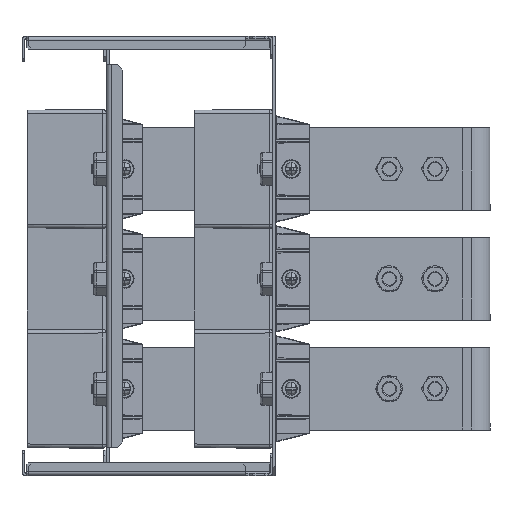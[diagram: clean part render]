
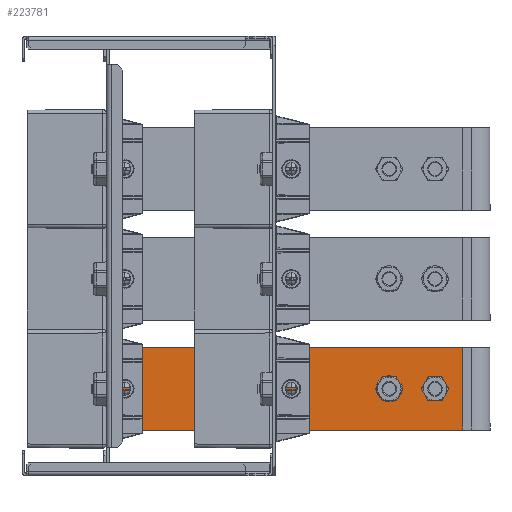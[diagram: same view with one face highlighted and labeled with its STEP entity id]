
A CAD part, left-side view. The second image highlights one B-rep face of the part: STEP entity #223781.
In plain terms, the highlighted planar face has unit normal (-1, 0, 0).
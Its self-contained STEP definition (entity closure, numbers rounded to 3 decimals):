
#223096=CARTESIAN_POINT(' ',(-2.5,-22.5,-0.5));
#223097=VERTEX_POINT(' ',#223096);
#223111=CARTESIAN_POINT(' ',(-2.5,-22.5,-0.5));
#223116=DIRECTION(' ',(0.,0.,-1.));
#223121=VECTOR(' ',#223116,1.);
#223126=LINE('',#223111,#223121);
#223131=CARTESIAN_POINT(' ',(-2.5,-22.5,-226.));
#223132=VERTEX_POINT(' ',#223131);
#223136=EDGE_CURVE(' ',#223097,#223132,#223126,.T.);
#223371=CARTESIAN_POINT(' ',(-2.5,22.5,-0.5));
#223376=DIRECTION(' ',(0.,0.,-1.));
#223381=VECTOR(' ',#223376,1.);
#223386=LINE('',#223371,#223381);
#223391=CARTESIAN_POINT(' ',(-2.5,22.5,-0.5));
#223392=VERTEX_POINT(' ',#223391);
#223396=CARTESIAN_POINT(' ',(-2.5,22.5,-226.));
#223397=VERTEX_POINT(' ',#223396);
#223401=EDGE_CURVE(' ',#223392,#223397,#223386,.T.);
#223646=CARTESIAN_POINT(' ',(-2.5,-22.5,-0.5));
#223651=DIRECTION(' ',(0.,1.,0.));
#223656=VECTOR(' ',#223651,1.);
#223661=LINE('',#223646,#223656);
#223666=EDGE_CURVE(' ',#223097,#223392,#223661,.T.);
#223701=DIRECTION(' ',(-1.,-0.,-0.));
#223706=CARTESIAN_POINT(' ',(-2.5,-22.5,-0.5));
#223711=DIRECTION(' ',(-0.,1.,0.));
#223716=AXIS2_PLACEMENT_3D(' ',#223706,#223701,#223711);
#223721=PLANE('NONE',#223716);
#223726=ORIENTED_EDGE(' ',*,*,#223136,.F.);
#223731=ORIENTED_EDGE(' ',*,*,#223666,.T.);
#223736=ORIENTED_EDGE(' ',*,*,#223401,.T.);
#223741=CARTESIAN_POINT(' ',(-2.5,22.5,-226.));
#223746=DIRECTION(' ',(0.,-1.,0.));
#223751=VECTOR(' ',#223746,1.);
#223756=LINE('',#223741,#223751);
#223761=EDGE_CURVE(' ',#223397,#223132,#223756,.T.);
#223766=ORIENTED_EDGE(' ',*,*,#223761,.T.);
#223771=EDGE_LOOP(' ',(#223726,#223731,#223736,#223766));
#223776=FACE_OUTER_BOUND(' ',#223771,.T.);
#223781=ADVANCED_FACE('NONE',(#223776),#223721,.T.);
